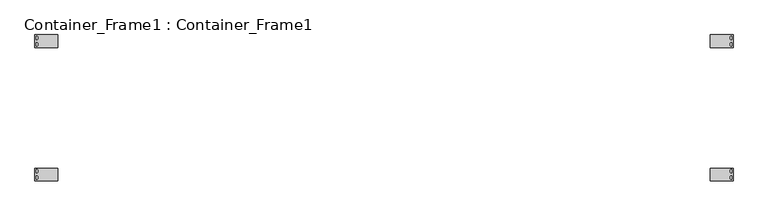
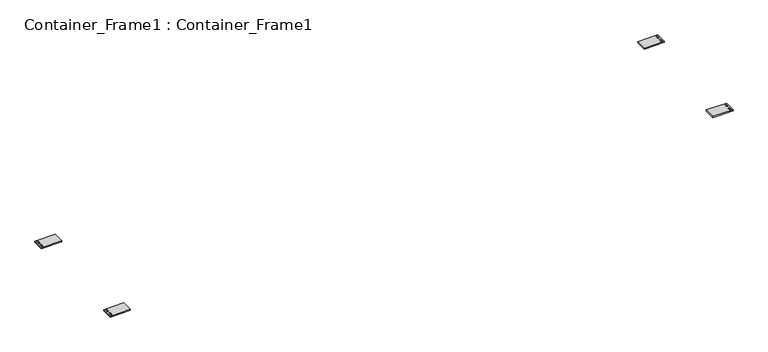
"""IFC4 building model written with IfcOpenShell, lengths in millimetres: beam geometry, Container_Frame1 : Container_Frame1."""

from ifc_helpers import new_model, si_unit, point, frame_2d, origin, origin_with_axes, place, context, project, spatial, polyline, circle_curve, trimmed, segment, composite_curve, outline, extrude, source, transform, mapped, element, save


def container_frame1_container_frame1_94d3b148(model_context):
    return source(origin(), model_context, "Body", "SweptSolid", [
        extrude(outline(polyline([(6472.5, -228.0304509), (6472.5, 21.9695491), (6922.5, 21.9695491), (6922.5, -228.0304509), (6472.5, -228.0304509)]), holes=[composite_curve([segment(polyline([(6900.5, -188.0304509), (6900.5, -148.0304509)]), True, "CONTINUOUS"), segment(trimmed(circle_curve(frame_2d((6884.5, -148.0304509)), 16.0), [point((6900.5, -148.0304509))], [point((6868.5, -148.0304509))], True, "CARTESIAN"), True, "CONTINUOUS"), segment(polyline([(6868.5, -148.0304509), (6868.5, -188.0304509)]), True, "CONTINUOUS"), segment(trimmed(circle_curve(frame_2d((6884.5, -188.0304509)), 16.0), [point((6868.5, -188.0304509))], [point((6900.5, -188.0304509))], True, "CARTESIAN"), True, "CONTINUOUS")], self_intersect=False), composite_curve([segment(trimmed(circle_curve(frame_2d((6884.5, -58.0304509)), 16.0), [point((6868.5, -58.0304509))], [point((6900.5, -58.0304509))], True, "CARTESIAN"), True, "CONTINUOUS"), segment(polyline([(6900.5, -58.0304509), (6900.5, -18.0304509)]), True, "CONTINUOUS"), segment(trimmed(circle_curve(frame_2d((6884.5, -18.0304509)), 16.0), [point((6900.5, -18.0304509))], [point((6868.5, -18.0304509))], True, "CARTESIAN"), True, "CONTINUOUS"), segment(polyline([(6868.5, -18.0304509), (6868.5, -58.0304509)]), True, "CONTINUOUS")], self_intersect=False)]), origin_with_axes(), (0.0, 0.0, 1.0), 25.0),
        extrude(outline(polyline([(-6472.5, -228.0304509), (-6922.5, -228.0304509), (-6922.5, 21.9695491), (-6472.5, 21.9695491), (-6472.5, -228.0304509)]), holes=[composite_curve([segment(trimmed(circle_curve(frame_2d((-6884.5, -188.0304509)), 16.0), [point((-6900.5, -188.0304509))], [point((-6868.5, -188.0304509))], True, "CARTESIAN"), True, "CONTINUOUS"), segment(polyline([(-6868.5, -188.0304509), (-6868.5, -148.0304509)]), True, "CONTINUOUS"), segment(trimmed(circle_curve(frame_2d((-6884.5, -148.0304509)), 16.0), [point((-6868.5, -148.0304509))], [point((-6900.5, -148.0304509))], True, "CARTESIAN"), True, "CONTINUOUS"), segment(polyline([(-6900.5, -148.0304509), (-6900.5, -188.0304509)]), True, "CONTINUOUS")], self_intersect=False), composite_curve([segment(polyline([(-6868.5, -58.0304509), (-6868.5, -18.0304509)]), True, "CONTINUOUS"), segment(trimmed(circle_curve(frame_2d((-6884.5, -18.0304509)), 16.0), [point((-6868.5, -18.0304509))], [point((-6900.5, -18.0304509))], True, "CARTESIAN"), True, "CONTINUOUS"), segment(polyline([(-6900.5, -18.0304509), (-6900.5, -58.0304509)]), True, "CONTINUOUS"), segment(trimmed(circle_curve(frame_2d((-6884.5, -58.0304509)), 16.0), [point((-6900.5, -58.0304509))], [point((-6868.5, -58.0304509))], True, "CARTESIAN"), True, "CONTINUOUS")], self_intersect=False)]), origin_with_axes(), (0.0, 0.0, 1.0), 25.0),
        extrude(outline(polyline([(6472.5, -2628.0304509), (6922.5, -2628.0304509), (6922.5, -2878.0304509), (6472.5, -2878.0304509), (6472.5, -2628.0304509)]), holes=[composite_curve([segment(polyline([(6868.5, -2798.0304509), (6868.5, -2838.0304509)]), True, "CONTINUOUS"), segment(trimmed(circle_curve(frame_2d((6884.5, -2838.0304509)), 16.0), [point((6868.5, -2838.0304509))], [point((6900.5, -2838.0304509))], True, "CARTESIAN"), True, "CONTINUOUS"), segment(polyline([(6900.5, -2838.0304509), (6900.5, -2798.0304509)]), True, "CONTINUOUS"), segment(trimmed(circle_curve(frame_2d((6884.5, -2798.0304509)), 16.0), [point((6900.5, -2798.0304509))], [point((6868.5, -2798.0304509))], True, "CARTESIAN"), True, "CONTINUOUS")], self_intersect=False), composite_curve([segment(trimmed(circle_curve(frame_2d((6884.5, -2708.0304509)), 16.0), [point((6868.5, -2708.0304509))], [point((6900.5, -2708.0304509))], True, "CARTESIAN"), True, "CONTINUOUS"), segment(polyline([(6900.5, -2708.0304509), (6900.5, -2668.0304509)]), True, "CONTINUOUS"), segment(trimmed(circle_curve(frame_2d((6884.5, -2668.0304509)), 16.0), [point((6900.5, -2668.0304509))], [point((6868.5, -2668.0304509))], True, "CARTESIAN"), True, "CONTINUOUS"), segment(polyline([(6868.5, -2668.0304509), (6868.5, -2708.0304509)]), True, "CONTINUOUS")], self_intersect=False)]), origin_with_axes(), (0.0, 0.0, 1.0), 25.0),
        extrude(outline(polyline([(-6472.5, -2628.0304509), (-6472.5, -2878.0304509), (-6922.5, -2878.0304509), (-6922.5, -2628.0304509), (-6472.5, -2628.0304509)]), holes=[composite_curve([segment(polyline([(-6900.5, -2668.0304509), (-6900.5, -2708.0304509)]), True, "CONTINUOUS"), segment(trimmed(circle_curve(frame_2d((-6884.5, -2708.0304509)), 16.0), [point((-6900.5, -2708.0304509))], [point((-6868.5, -2708.0304509))], True, "CARTESIAN"), True, "CONTINUOUS"), segment(polyline([(-6868.5, -2708.0304509), (-6868.5, -2668.0304509)]), True, "CONTINUOUS"), segment(trimmed(circle_curve(frame_2d((-6884.5, -2668.0304509)), 16.0), [point((-6868.5, -2668.0304509))], [point((-6900.5, -2668.0304509))], True, "CARTESIAN"), True, "CONTINUOUS")], self_intersect=False), composite_curve([segment(trimmed(circle_curve(frame_2d((-6884.5, -2798.0304509)), 16.0), [point((-6868.5, -2798.0304509))], [point((-6900.5, -2798.0304509))], True, "CARTESIAN"), True, "CONTINUOUS"), segment(polyline([(-6900.5, -2798.0304509), (-6900.5, -2838.0304509)]), True, "CONTINUOUS"), segment(trimmed(circle_curve(frame_2d((-6884.5, -2838.0304509)), 16.0), [point((-6900.5, -2838.0304509))], [point((-6868.5, -2838.0304509))], True, "CARTESIAN"), True, "CONTINUOUS"), segment(polyline([(-6868.5, -2838.0304509), (-6868.5, -2798.0304509)]), True, "CONTINUOUS")], self_intersect=False)]), origin_with_axes(), (0.0, 0.0, 1.0), 25.0),
    ])


if __name__ == "__main__":
    model = new_model("IFC4")
    model_context = context("Model", 3, world=origin())
    ifc_project = project(units=[si_unit("LENGTHUNIT", "METRE", prefix="MILLI")], contexts=[model_context])
    site = spatial("IfcSite", under=ifc_project)
    building = spatial("IfcBuilding", under=site)
    placement = place(None, origin())
    container_frame1_container_frame1_shape = container_frame1_container_frame1_94d3b148(model_context)
    element("IfcBeam", 1, ObjectType="Container_Frame1 : Container_Frame1", at=placement, inside=building, context=model_context, shape_type="MappedRepresentation", body=[
        mapped(container_frame1_container_frame1_shape, transform((0.0, 0.0, 0.0), x_axis=(1.0, 0.0, 0.0), y_axis=(0.0, 1.0, 0.0), z_axis=(0.0, 0.0, 1.0))),
    ])
    save(model, "model.ifc")
